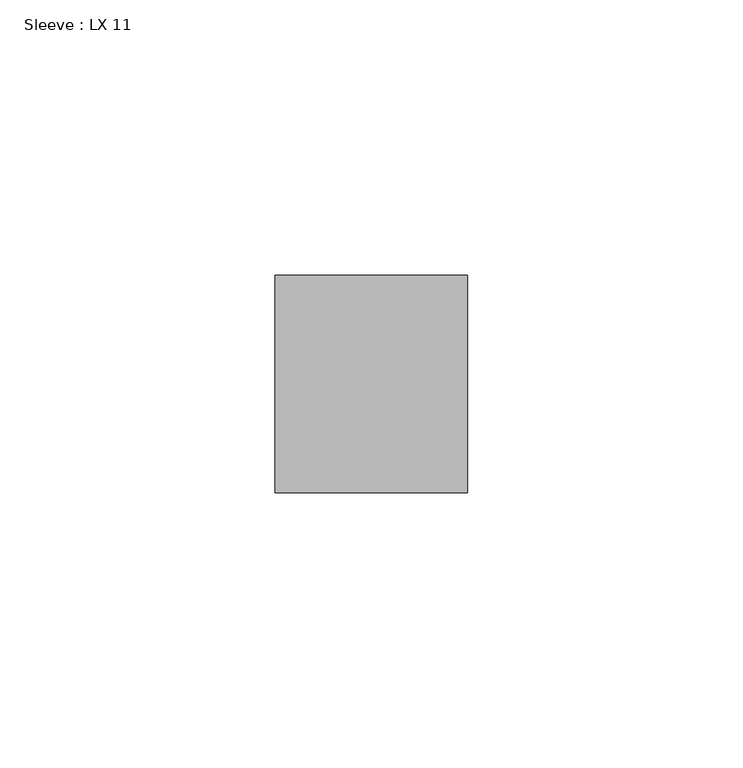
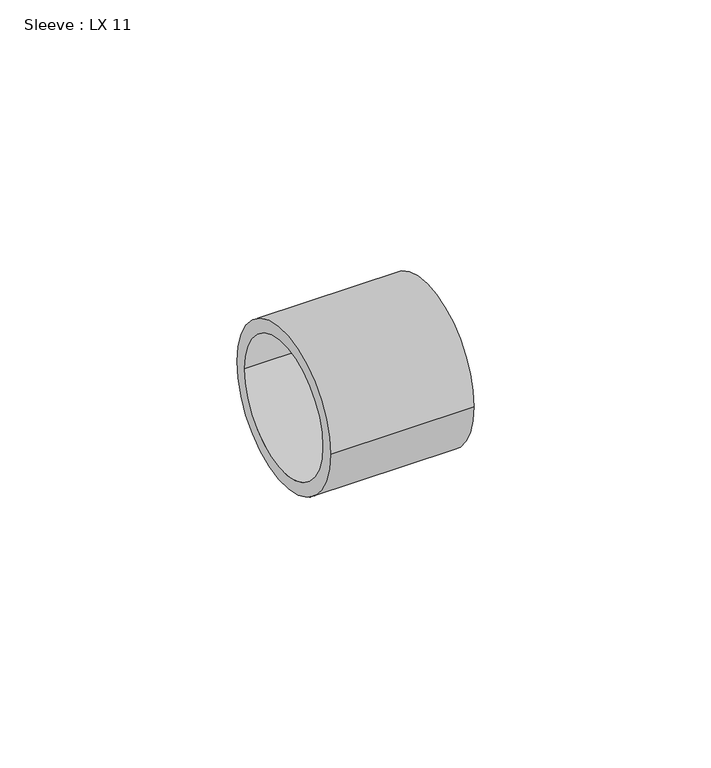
"""IFC4 building model written with IfcOpenShell, lengths in millimetres: pipe fitting geometry, Sleeve : LX 11."""

from ifc_helpers import new_model, si_unit, point, frame, origin, origin_2d, place, context, project, spatial, circle_curve, trimmed, segment, composite_curve, outline, extrude, source, transform, mapped, element, save


def sleeve_lx_11_2e170aa1(model_context):
    return source(origin(), model_context, "Body", "SweptSolid", [
        extrude(outline(composite_curve([segment(trimmed(circle_curve(origin_2d(), 19.75), [point((-19.75, 0.0))], [point((19.75, 0.0))], False, "CARTESIAN"), True, "CONTINUOUS"), segment(trimmed(circle_curve(origin_2d(), 19.75), [point((19.75, 0.0))], [point((-19.75, 0.0))], False, "CARTESIAN"), True, "CONTINUOUS")], self_intersect=False), holes=[composite_curve([segment(trimmed(circle_curve(origin_2d(), 16.5), [point((-16.5, 0.0))], [point((16.5, 0.0))], True, "CARTESIAN"), True, "CONTINUOUS"), segment(trimmed(circle_curve(origin_2d(), 16.5), [point((16.5, 0.0))], [point((-16.5, 0.0))], True, "CARTESIAN"), True, "CONTINUOUS")], self_intersect=False)]), frame((0.0, 0.0, 0.0), z_axis=(1.0, 0.0, 0.0), x_axis=(0.0, 1.0, 0.0)), (0.0, 0.0, 1.0), 35.0),
    ])


if __name__ == "__main__":
    model = new_model("IFC4")
    model_context = context("Model", 3, world=origin())
    ifc_project = project(units=[si_unit("LENGTHUNIT", "METRE", prefix="MILLI")], contexts=[model_context])
    site = spatial("IfcSite", under=ifc_project)
    building = spatial("IfcBuilding", under=site)
    placement = place(None, origin())
    sleeve_lx_11_shape = sleeve_lx_11_2e170aa1(model_context)
    element("IfcPipeFitting", 1, ObjectType="Sleeve : LX 11", at=placement, inside=building, context=model_context, shape_type="MappedRepresentation", body=[
        mapped(sleeve_lx_11_shape, transform((0.0, 0.0, 0.0), x_axis=(1.0, 0.0, 0.0), y_axis=(0.0, 1.0, 0.0), z_axis=(0.0, 0.0, 1.0))),
    ])
    save(model, "model.ifc")
